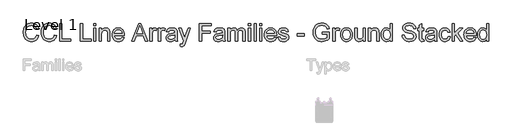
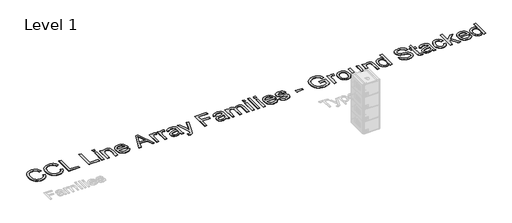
# One storey, part 10 of 31: 1 proxy.
"""IFC4 building model written with IfcOpenShell, lengths in millimetres."""

from ifc_helpers import new_model, si_unit, origin, origin_with_axes, place, context, project, spatial, polyline, outline, extrude, element, save

model = new_model("IFC4")

# Units and contexts
model_context = context("Model", 3, world=origin())
ifc_project = project(units=[si_unit("LENGTHUNIT", "METRE", prefix="MILLI")], contexts=[model_context])

# Site, building, storey
site = spatial("IfcSite", under=ifc_project)
building = spatial("IfcBuilding", under=site)
storey = spatial("IfcBuildingStorey", under=building, Name="Level 1", Elevation=0.0)

# Proxy
placement = place(None, origin())
element("IfcBuildingElementProxy", 1, Name="600mm Arial", ObjectType="600mm Arial", at=placement, inside=storey, context=model_context, shape_type="SweptSolid", body=[
    extrude(outline(polyline([(-20609.8448639, -1457.1212893), (-20534.5026313, -1476.5454586), (-20549.4110491, -1523.3998292), (-20569.2674798, -1564.3404968), (-20594.0719234, -1599.3674613), (-20623.8243797, -1628.4807226), (-20657.8534643, -1651.3675813), (-20695.4877924, -1667.7153374), (-20736.727364, -1677.5239911), (-20781.5721793, -1680.7935424), (-20827.5160419, -1678.3195359), (-20868.9625472, -1670.8975167), (-20905.9116951, -1658.5274846), (-20938.3634856, -1641.2094397), (-20966.7639756, -1619.2008993), (-20991.5592221, -1592.7593809), (-21012.749225, -1561.8848845), (-21030.3339844, -1526.57741), (-21044.1433548, -1488.3636677), (-21054.0071908, -1448.770368), (-21059.9254924, -1407.7975108), (-21061.8982596, -1365.4450961), (-21059.667975, -1320.0024726), (-21052.9771212, -1277.5580874), (-21041.8256982, -1238.1119405), (-21026.213706, -1201.6640318), (-21006.4906326, -1168.8167682), (-20983.0059657, -1140.1725563), (-20955.7597054, -1115.7313963), (-20924.7518518, -1095.493288), (-20891.0354669, -1079.6237785), (-20855.6636131, -1068.2884145), (-20818.6362903, -1061.4871961), (-20779.9534985, -1059.2201233), (-20736.8607213, -1062.1539822), (-20697.3455965, -1070.955559), (-20661.4081241, -1085.6248535), (-20629.0483041, -1106.1618659), (-20600.7995653, -1132.0239702), (-20577.1953368, -1162.6685404), (-20558.2356185, -1198.0955765), (-20543.9204104, -1238.3050786), (-20619.262643, -1256.2577199), (-20631.1268373, -1226.6294237), (-20645.3822646, -1201.3145439), (-20662.0289249, -1180.3130805), (-20681.0668182, -1163.6250335), (-20702.606309, -1150.9101121), (-20726.757762, -1141.8280253), (-20753.5211771, -1136.3787733), (-20782.8965544, -1134.5623559), (-20816.6957127, -1136.5765098), (-20847.6069974, -1142.6189716), (-20875.6304084, -1152.6897412), (-20900.7659457, -1166.7888187), (-20922.6963111, -1184.2816076), (-20941.1042065, -1204.5335114), (-20955.9896317, -1227.5445302), (-20967.3525868, -1253.314664), (-20981.7551669, -1308.460175), (-20986.556027, -1365.2979433), (-20980.8722501, -1434.9012168), (-20973.7675291, -1466.1711864), (-20963.8209197, -1495.0867112), (-20950.8714734, -1521.0729756), (-20934.758242, -1543.5551641), (-20915.4812255, -1562.5332765), (-20893.0404238, -1578.0073129), (-20868.5256873, -1590.0140615), (-20843.0268665, -1598.5903105), (-20816.5439614, -1603.7360599), (-20789.076972, -1605.4513097), (-20756.3216788, -1603.1152591), (-20726.1875449, -1596.1071071), (-20698.6745702, -1584.4268537), (-20673.7827547, -1568.074499), (-20652.1007096, -1547.1236194), (-20634.2170461, -1521.6477912), (-20620.1317642, -1491.6470145), (-20609.8448639, -1457.1212893)])), origin_with_axes(), (0.0, 0.0, 1.0), 5.0),
    extrude(outline(polyline([(-20007.107003, -1457.1212893), (-19931.7647704, -1476.5454586), (-19946.6731882, -1523.3998292), (-19966.5296189, -1564.3404968), (-19991.3340625, -1599.3674613), (-20021.0865188, -1628.4807226), (-20055.1156034, -1651.3675813), (-20092.7499315, -1667.7153374), (-20133.9895031, -1677.5239911), (-20178.8343184, -1680.7935424), (-20224.778181, -1678.3195359), (-20266.2246863, -1670.8975167), (-20303.1738342, -1658.5274846), (-20335.6256247, -1641.2094397), (-20364.0261147, -1619.2008993), (-20388.8213612, -1592.7593809), (-20410.0113641, -1561.8848845), (-20427.5961235, -1526.57741), (-20441.4054939, -1488.3636677), (-20451.2693299, -1448.770368), (-20457.1876315, -1407.7975108), (-20459.1603987, -1365.4450961), (-20456.9301141, -1320.0024726), (-20450.2392603, -1277.5580874), (-20439.0878373, -1238.1119405), (-20423.4758451, -1201.6640318), (-20403.7527717, -1168.8167682), (-20380.2681048, -1140.1725563), (-20353.0218445, -1115.7313963), (-20322.0139909, -1095.493288), (-20288.297606, -1079.6237785), (-20252.9257522, -1068.2884145), (-20215.8984294, -1061.4871961), (-20177.2156376, -1059.2201233), (-20134.1228604, -1062.1539822), (-20094.6077356, -1070.955559), (-20058.6702632, -1085.6248535), (-20026.3104432, -1106.1618659), (-19998.0617044, -1132.0239702), (-19974.4574759, -1162.6685404), (-19955.4977576, -1198.0955765), (-19941.1825495, -1238.3050786), (-20016.5247821, -1256.2577199), (-20028.3889764, -1226.6294237), (-20042.6444037, -1201.3145439), (-20059.291064, -1180.3130805), (-20078.3289573, -1163.6250335), (-20099.8684481, -1150.9101121), (-20124.0199011, -1141.8280253), (-20150.7833162, -1136.3787733), (-20180.1586935, -1134.5623559), (-20213.9578518, -1136.5765098), (-20244.8691365, -1142.6189716), (-20272.8925475, -1152.6897412), (-20298.0280848, -1166.7888187), (-20319.9584502, -1184.2816076), (-20338.3663456, -1204.5335114), (-20353.2517708, -1227.5445302), (-20364.6147259, -1253.314664), (-20379.017306, -1308.460175), (-20383.8181661, -1365.2979433), (-20378.1343892, -1434.9012168), (-20371.0296682, -1466.1711864), (-20361.0830588, -1495.0867112), (-20348.1336125, -1521.0729756), (-20332.0203811, -1543.5551641), (-20312.7433646, -1562.5332765), (-20290.3025629, -1578.0073129), (-20265.7878264, -1590.0140615), (-20240.2890056, -1598.5903105), (-20213.8061005, -1603.7360599), (-20186.3391111, -1605.4513097), (-20153.5838179, -1603.1152591), (-20123.449684, -1596.1071071), (-20095.9367093, -1584.4268537), (-20071.0448938, -1568.074499), (-20049.3628487, -1547.1236194), (-20031.4791852, -1521.6477912), (-20017.3939033, -1491.6470145), (-20007.107003, -1457.1212893)])), origin_with_axes(), (0.0, 0.0, 1.0), 5.0),
    extrude(outline(polyline([(-19828.1692006, -1671.3757633), (-19828.1692006, -1068.6379024), (-19752.8269679, -1068.6379024), (-19752.8269679, -1596.0335307), (-19451.4580375, -1596.0335307), (-19451.4580375, -1671.3757633), (-19828.1692006, -1671.3757633)])), origin_with_axes(), (0.0, 0.0, 1.0), 5.0),
    extrude(outline(polyline([(-19131.2535489, -1671.3757633), (-19131.2535489, -1068.6379024), (-19055.9113163, -1068.6379024), (-19055.9113163, -1596.0335307), (-18754.5423858, -1596.0335307), (-18754.5423858, -1671.3757633), (-19131.2535489, -1671.3757633)])), origin_with_axes(), (0.0, 0.0, 1.0), 5.0),
    extrude(outline(polyline([(-18679.2001532, -1143.980135), (-18679.2001532, -1068.6379024), (-18603.8579206, -1068.6379024), (-18603.8579206, -1143.980135), (-18679.2001532, -1143.980135)])), origin_with_axes(), (0.0, 0.0, 1.0), 5.0),
    extrude(outline(polyline([(-18679.2001532, -1671.3757633), (-18679.2001532, -1228.7401467), (-18603.8579206, -1228.7401467), (-18603.8579206, -1671.3757633), (-18679.2001532, -1671.3757633)])), origin_with_axes(), (0.0, 0.0, 1.0), 5.0),
    extrude(outline(polyline([(-18490.8445717, -1671.3757633), (-18490.8445717, -1228.7401467), (-18415.5023391, -1228.7401467), (-18415.5023391, -1290.5443219), (-18389.3275351, -1259.3847169), (-18357.8920186, -1237.1278562), (-18321.1957896, -1223.7737398), (-18279.2388481, -1219.3223676), (-18242.1011606, -1222.9092171), (-18208.0904702, -1233.6697654), (-18179.7267684, -1250.2612434), (-18159.5300468, -1271.3408817), (-18145.8264425, -1296.8534981), (-18136.9420923, -1326.7439102), (-18132.9689668, -1399.5845452), (-18132.9689668, -1671.3757633), (-18208.3111994, -1671.3757633), (-18208.3111994, -1409.7380883), (-18210.4817032, -1370.779385), (-18216.9932145, -1343.0778708), (-18229.0045616, -1323.2306371), (-18247.6745729, -1307.8347756), (-18271.6052967, -1297.9571441), (-18299.3987814, -1294.6646002), (-18322.276443, -1296.5132072), (-18343.5262267, -1302.0590283), (-18363.1481326, -1311.3020635), (-18381.1421607, -1324.2423126), (-18396.1747387, -1342.3513038), (-18406.9122945, -1367.1005651), (-18413.3548279, -1398.4900963), (-18415.5023391, -1436.5198976), (-18415.5023391, -1671.3757633), (-18490.8445717, -1671.3757633)])), origin_with_axes(), (0.0, 0.0, 1.0), 5.0),
    extrude(outline(polyline([(-17719.4696042, -1539.5268562), (-17645.5988996, -1548.9446353), (-17656.9250665, -1578.5315448), (-17672.2151619, -1604.6051812), (-17691.4691858, -1627.1655445), (-17714.6871383, -1646.2126348), (-17741.6298959, -1661.3417819), (-17772.0583354, -1672.1483155), (-17805.9724568, -1678.6322356), (-17843.3722602, -1680.7935424), (-17890.1208647, -1677.0641386), (-17931.7743036, -1665.8759275), (-17968.3325769, -1647.2289088), (-17999.7956845, -1621.1230827), (-18025.0967687, -1588.2850161), (-18043.1689718, -1549.441276), (-18054.0122936, -1504.5918622), (-18057.6267342, -1453.7367749), (-18053.9755054, -1401.1572408), (-18043.021819, -1354.8133064), (-18024.7656749, -1314.7049719), (-17999.2070733, -1280.8322372), (-17967.8267391, -1253.9216693), (-17932.1053974, -1234.699835), (-17892.0430481, -1223.1667345), (-17847.6396913, -1219.3223676), (-17804.6664758, -1223.1575374), (-17765.8043415, -1234.6630468), (-17731.0532885, -1253.8388958), (-17700.4133168, -1280.6850844), (-17675.4019397, -1314.4842427), (-17657.5366703, -1354.5190008), (-17646.8175087, -1400.7893588), (-17643.2444548, -1453.2953165), (-17643.6859132, -1473.6024027), (-17982.2845016, -1473.6024027), (-17977.9205014, -1503.6675587), (-17969.2430848, -1529.9987125), (-17956.2522519, -1552.5958641), (-17938.9480025, -1571.4590134), (-17918.28683, -1586.330643), (-17895.2252274, -1596.9532357), (-17869.7631948, -1603.3267912), (-17841.9007322, -1605.4513097), (-17801.8015947, -1601.5149724), (-17768.0300276, -1589.7059604), (-17740.5860307, -1569.2885096), (-17719.4696042, -1539.5268562)]), holes=[polyline([(-17982.2845016, -1398.2601701), (-17718.5866874, -1398.2601701), (-17728.7770187, -1358.4553382), (-17737.5418072, -1342.8019593), (-17748.753011, -1329.9812718), (-17769.2992204, -1314.530228), (-17792.6781212, -1303.4937681), (-17818.8897134, -1296.8718922), (-17847.9339969, -1294.6646002), (-17874.4260991, -1296.4258353), (-17898.7201063, -1301.7095404), (-17920.8160187, -1310.5157157), (-17940.7138361, -1322.8443611), (-17957.4110802, -1338.1252594), (-17969.9052724, -1355.7881937), (-17978.1964129, -1375.8331639), (-17982.2845016, -1398.2601701)])]), origin_with_axes(), (0.0, 0.0, 1.0), 5.0),
    extrude(outline(polyline([(-17393.0846981, -1671.3757633), (-17152.4898732, -1068.6379024), (-17088.3312533, -1068.6379024), (-16847.8835812, -1671.3757633), (-16927.493245, -1671.3757633), (-16996.3607545, -1483.0201818), (-17244.7546776, -1483.0201818), (-17313.6221871, -1671.3757633), (-17393.0846981, -1671.3757633)]), holes=[polyline([(-17217.0899516, -1407.6779491), (-17023.8783277, -1407.6779491), (-17078.324863, -1259.4950815), (-17120.557716, -1143.980135), (-17158.0816796, -1246.5456353), (-17217.0899516, -1407.6779491)])]), origin_with_axes(), (0.0, 0.0, 1.0), 5.0),
    extrude(outline(polyline([(-16776.8087798, -1671.3757633), (-16776.8087798, -1228.7401467), (-16710.8843262, -1228.7401467), (-16710.8843262, -1294.2231418), (-16686.5305381, -1256.2577199), (-16664.0897364, -1233.8904946), (-16641.5753583, -1222.9643994), (-16617.0008411, -1219.3223676), (-16579.4768775, -1225.1349031), (-16541.3643028, -1242.5725097), (-16566.5274313, -1310.115644), (-16593.014935, -1298.5273612), (-16619.5024386, -1294.6646002), (-16641.9984226, -1298.3802084), (-16662.1031737, -1309.5270328), (-16678.3451637, -1327.258945), (-16689.2528649, -1350.7298163), (-16698.4131266, -1392.8155165), (-16701.4665471, -1438.7271895), (-16701.4665471, -1671.3757633), (-16776.8087798, -1671.3757633)])), origin_with_axes(), (0.0, 0.0, 1.0), 5.0),
    extrude(outline(polyline([(-16494.2754075, -1671.3757633), (-16494.2754075, -1228.7401467), (-16428.3509539, -1228.7401467), (-16428.3509539, -1294.2231418), (-16403.9971658, -1256.2577199), (-16381.5563641, -1233.8904946), (-16359.041986, -1222.9643994), (-16334.4674688, -1219.3223676), (-16296.9435052, -1225.1349031), (-16258.8309305, -1242.5725097), (-16283.994059, -1310.115644), (-16310.4815627, -1298.5273612), (-16336.9690663, -1294.6646002), (-16359.4650503, -1298.3802084), (-16379.5698014, -1309.5270328), (-16395.8117915, -1327.258945), (-16406.7194926, -1350.7298163), (-16415.8797543, -1392.8155165), (-16418.9331748, -1438.7271895), (-16418.9331748, -1671.3757633), (-16494.2754075, -1671.3757633)])), origin_with_axes(), (0.0, 0.0, 1.0), 5.0),
    extrude(outline(polyline([(-15929.2086629, -1614.8690888), (-15965.2059161, -1645.7343882), (-16002.2700271, -1665.9311098), (-16041.2471245, -1677.0779342), (-16082.9833369, -1680.7935424), (-16116.5295763, -1678.5586592), (-16145.9463403, -1671.8540099), (-16171.233629, -1660.6795943), (-16192.3914422, -1645.0354124), (-16209.0978833, -1625.9147457), (-16221.0310555, -1604.3108756), (-16228.1909589, -1580.2238019), (-16230.5775933, -1553.6535248), (-16226.9723498, -1522.4203434), (-16216.1566191, -1494.0566416), (-16199.4731706, -1469.7764299), (-16178.2647736, -1450.793719), (-16153.3407684, -1436.4463212), (-16125.5104955, -1426.0720489), (-16060.3218059, -1414.7412834), (-15983.2873162, -1402.8219068), (-15929.6501213, -1388.842391), (-15929.2086629, -1372.066972), (-15934.395799, -1338.4425576), (-15940.8797192, -1325.9897521), (-15949.9572074, -1316.4432143), (-15965.6473745, -1306.9150707), (-15984.7588441, -1300.1092538), (-16033.2456911, -1294.6646002), (-16078.1272945, -1298.2882379), (-16109.4708405, -1309.1591508), (-16130.8447844, -1329.2639019), (-16145.8175816, -1360.5890538), (-16221.1598142, -1351.1712747), (-16208.0816093, -1309.9684912), (-16188.5654695, -1277.5948756), (-16160.7903788, -1252.8364174), (-16122.9353215, -1234.4791058), (-16076.6373724, -1223.1115522), (-16023.5336064, -1219.3223676), (-15972.6003442, -1222.6700938), (-15932.2252952, -1232.7132722), (-15901.7830601, -1247.8148281), (-15880.6482395, -1266.3376866), (-15866.6319355, -1289.2383408), (-15857.5452502, -1317.4732839), (-15853.8664303, -1383.3977375), (-15853.8664303, -1477.1340698), (-15850.0404575, -1608.0264837), (-15844.3750748, -1640.3817052), (-15835.0308721, -1671.3757633), (-15910.3731047, -1671.3757633), (-15922.4396342, -1645.1825652), (-15929.2086629, -1614.8690888)]), holes=[polyline([(-15929.2086629, -1464.1846236), (-15979.8292254, -1476.7293996), (-16050.7568741, -1487.2876129), (-16115.5776816, -1499.5012951), (-16132.4450711, -1507.8522164), (-16144.9346648, -1519.3669229), (-16152.6601867, -1533.1624977), (-16155.2353607, -1548.3560241), (-16149.6251603, -1570.7600376), (-16132.794559, -1589.1173492), (-16105.1114389, -1601.3678196), (-16066.9436819, -1605.4513097), (-16026.4766624, -1600.9447553), (-15990.7185325, -1587.425092), (-15961.7294312, -1567.5042819), (-15941.5694979, -1543.7942874), (-15932.6299654, -1519.3669229), (-15929.6501213, -1485.5217793), (-15929.2086629, -1464.1846236)])]), origin_with_axes(), (0.0, 0.0, 1.0), 5.0),
    extrude(outline(polyline([(-15750.2708604, -1840.8957867), (-15759.6886395, -1768.3494572), (-15721.428912, -1774.9713331), (-15701.3057669, -1772.8927999), (-15685.6707821, -1766.6572), (-15673.493888, -1756.7059921), (-15663.7450151, -1743.4806343), (-15643.1436234, -1688.0040295), (-15637.2575115, -1669.7570825), (-15797.3597558, -1228.7401467), (-15718.0443976, -1228.7401467), (-15632.9900804, -1474.6324723), (-15603.4123679, -1572.9305414), (-15573.8346555, -1485.9632377), (-15486.5730463, -1228.7401467), (-15407.8462993, -1228.7401467), (-15561.9152789, -1681.9707647), (-15601.94084, -1780.2688339), (-15622.4318671, -1811.649168), (-15645.645221, -1833.390994), (-15672.574183, -1846.0829228), (-15704.2120346, -1850.3135657), (-15726.1010133, -1847.959121), (-15750.2708604, -1840.8957867)])), origin_with_axes(), (0.0, 0.0, 1.0), 5.0),
    extrude(outline(polyline([(-15100.4441041, -1671.3757633), (-15100.4441041, -1068.6379024), (-14695.4796038, -1068.6379024), (-14695.4796038, -1143.980135), (-15025.1018715, -1143.980135), (-15025.1018715, -1322.9179375), (-14742.5684992, -1322.9179375), (-14742.5684992, -1398.2601701), (-15025.1018715, -1398.2601701), (-15025.1018715, -1671.3757633), (-15100.4441041, -1671.3757633)])), origin_with_axes(), (0.0, 0.0, 1.0), 5.0),
    extrude(outline(polyline([(-14318.7684408, -1614.8690888), (-14354.765694, -1645.7343882), (-14391.829805, -1665.9311098), (-14430.8069024, -1677.0779342), (-14472.5431148, -1680.7935424), (-14506.0893542, -1678.5586592), (-14535.5061182, -1671.8540099), (-14560.7934069, -1660.6795943), (-14581.9512201, -1645.0354124), (-14598.6576612, -1625.9147457), (-14610.5908335, -1604.3108756), (-14617.7507368, -1580.2238019), (-14620.1373712, -1553.6535248), (-14616.5321277, -1522.4203434), (-14605.716397, -1494.0566416), (-14589.0329485, -1469.7764299), (-14567.8245515, -1450.793719), (-14542.9005463, -1436.4463212), (-14515.0702734, -1426.0720489), (-14449.8815839, -1414.7412834), (-14372.8470941, -1402.8219068), (-14319.2098992, -1388.842391), (-14318.7684408, -1372.066972), (-14323.9555769, -1338.4425576), (-14330.4394971, -1325.9897521), (-14339.5169853, -1316.4432143), (-14355.2071524, -1306.9150707), (-14374.3186221, -1300.1092538), (-14422.805469, -1294.6646002), (-14467.6870724, -1298.2882379), (-14499.0306184, -1309.1591508), (-14520.4045623, -1329.2639019), (-14535.3773595, -1360.5890538), (-14610.7195922, -1351.1712747), (-14597.6413872, -1309.9684912), (-14578.1252474, -1277.5948756), (-14550.3501567, -1252.8364174), (-14512.4950994, -1234.4791058), (-14466.1971503, -1223.1115522), (-14413.0933843, -1219.3223676), (-14362.1601221, -1222.6700938), (-14321.7850731, -1232.7132722), (-14291.342838, -1247.8148281), (-14270.2080174, -1266.3376866), (-14256.1917134, -1289.2383408), (-14247.1050281, -1317.4732839), (-14243.4262082, -1383.3977375), (-14243.4262082, -1477.1340698), (-14239.6002354, -1608.0264837), (-14233.9348527, -1640.3817052), (-14224.59065, -1671.3757633), (-14299.9328826, -1671.3757633), (-14311.9994121, -1645.1825652), (-14318.7684408, -1614.8690888)]), holes=[polyline([(-14318.7684408, -1464.1846236), (-14369.3890033, -1476.7293996), (-14440.316652, -1487.2876129), (-14505.1374595, -1499.5012951), (-14522.004849, -1507.8522164), (-14534.4944428, -1519.3669229), (-14542.2199647, -1533.1624977), (-14544.7951386, -1548.3560241), (-14539.1849382, -1570.7600376), (-14522.3543369, -1589.1173492), (-14494.6712168, -1601.3678196), (-14456.5034598, -1605.4513097), (-14416.0364403, -1600.9447553), (-14380.2783104, -1587.425092), (-14351.2892092, -1567.5042819), (-14331.1292758, -1543.7942874), (-14322.1897433, -1519.3669229), (-14319.2098992, -1485.5217793), (-14318.7684408, -1464.1846236)])]), origin_with_axes(), (0.0, 0.0, 1.0), 5.0),
    extrude(outline(polyline([(-14139.8306383, -1671.3757633), (-14139.8306383, -1228.7401467), (-14064.4884057, -1228.7401467), (-14064.4884057, -1301.5807817), (-14041.8268748, -1268.1219143), (-14012.6906208, -1241.9103221), (-13978.072925, -1224.9693562), (-13938.967069, -1219.3223676), (-13897.0653097, -1225.0797208), (-13879.23223, -1232.2764124), (-13863.4776836, -1242.3517805), (-13838.3881315, -1269.9981124), (-13821.9805945, -1306.8782825), (-13794.5182036, -1268.5725697), (-13763.1930517, -1241.2113463), (-13728.0051388, -1224.7946123), (-13688.954465, -1219.3223676), (-13658.79274, -1221.5986375), (-13632.3190319, -1228.427447), (-13609.5333408, -1239.8087962), (-13590.4356667, -1255.7426851), (-13575.3387094, -1276.4130547), (-13564.5551684, -1302.003846), (-13558.0850438, -1332.515059), (-13555.9283356, -1367.9466937), (-13555.9283356, -1671.3757633), (-13631.2705682, -1671.3757633), (-13631.2705682, -1400.3203092), (-13633.0180077, -1362.7411634), (-13638.2603261, -1337.4124881), (-13648.0827754, -1320.066852), (-13663.5706074, -1306.4368241), (-13683.4914174, -1297.6076562), (-13706.6128008, -1294.6646002), (-13727.9637521, -1296.5499954), (-13747.4293082, -1302.2061811), (-13765.009469, -1311.6331573), (-13780.7042346, -1324.8309238), (-13793.6122941, -1342.1857569), (-13802.8323366, -1364.0839327), (-13808.3643621, -1390.5254511), (-13810.2083707, -1421.5103122), (-13810.2083707, -1671.3757633), (-13885.5506033, -1671.3757633), (-13885.5506033, -1391.9325997), (-13889.9100049, -1349.3318647), (-13895.359257, -1332.611628), (-13902.9882098, -1318.9448119), (-13913.1003662, -1308.3222193), (-13925.9992286, -1300.7346531), (-13941.6847972, -1296.1821135), (-13960.1570719, -1294.6646002), (-13989.1829613, -1298.7113022), (-14015.9279824, -1310.851408), (-14038.0009021, -1330.7906121), (-14053.0104875, -1358.234609), (-14061.6189262, -1396.3103955), (-14064.4884057, -1448.1449686), (-14064.4884057, -1671.3757633), (-14139.8306383, -1671.3757633)])), origin_with_axes(), (0.0, 0.0, 1.0), 5.0),
    extrude(outline(polyline([(-13442.9149867, -1671.3757633), (-13442.9149867, -1228.7401467), (-13367.5727541, -1228.7401467), (-13367.5727541, -1671.3757633), (-13442.9149867, -1671.3757633)])), origin_with_axes(), (0.0, 0.0, 1.0), 5.0),
    extrude(outline(polyline([(-13442.9149867, -1143.980135), (-13442.9149867, -1068.6379024), (-13367.5727541, -1068.6379024), (-13367.5727541, -1143.980135), (-13442.9149867, -1143.980135)])), origin_with_axes(), (0.0, 0.0, 1.0), 5.0),
    extrude(outline(polyline([(-13254.5594051, -1671.3757633), (-13254.5594051, -1068.6379024), (-13179.2171725, -1068.6379024), (-13179.2171725, -1671.3757633), (-13254.5594051, -1671.3757633)])), origin_with_axes(), (0.0, 0.0, 1.0), 5.0),
    extrude(outline(polyline([(-13066.2038236, -1143.980135), (-13066.2038236, -1068.6379024), (-12990.861591, -1068.6379024), (-12990.861591, -1143.980135), (-13066.2038236, -1143.980135)])), origin_with_axes(), (0.0, 0.0, 1.0), 5.0),
    extrude(outline(polyline([(-13066.2038236, -1671.3757633), (-13066.2038236, -1228.7401467), (-12990.861591, -1228.7401467), (-12990.861591, -1671.3757633), (-13066.2038236, -1671.3757633)])), origin_with_axes(), (0.0, 0.0, 1.0), 5.0),
    extrude(outline(polyline([(-12567.9444493, -1539.5268562), (-12494.0737447, -1548.9446353), (-12505.3999116, -1578.5315448), (-12520.6900071, -1604.6051812), (-12539.944031, -1627.1655445), (-12563.1619834, -1646.2126348), (-12590.104741, -1661.3417819), (-12620.5331805, -1672.1483155), (-12654.447302, -1678.6322356), (-12691.8471053, -1680.7935424), (-12738.5957098, -1677.0641386), (-12780.2491488, -1665.8759275), (-12816.807422, -1647.2289088), (-12848.2705297, -1621.1230827), (-12873.5716139, -1588.2850161), (-12891.6438169, -1549.441276), (-12902.4871387, -1504.5918622), (-12906.1015793, -1453.7367749), (-12902.4503505, -1401.1572408), (-12891.4966641, -1354.8133064), (-12873.2405201, -1314.7049719), (-12847.6819185, -1280.8322372), (-12816.3015843, -1253.9216693), (-12780.5802425, -1234.699835), (-12740.5178933, -1223.1667345), (-12696.1145365, -1219.3223676), (-12653.1413209, -1223.1575374), (-12614.2791866, -1234.6630468), (-12579.5281337, -1253.8388958), (-12548.888162, -1280.6850844), (-12523.8767848, -1314.4842427), (-12506.0115154, -1354.5190008), (-12495.2923538, -1400.7893588), (-12491.7192999, -1453.2953165), (-12492.1607583, -1473.6024027), (-12830.7593467, -1473.6024027), (-12826.3953465, -1503.6675587), (-12817.71793, -1529.9987125), (-12804.727097, -1552.5958641), (-12787.4228477, -1571.4590134), (-12766.7616751, -1586.330643), (-12743.7000725, -1596.9532357), (-12718.2380399, -1603.3267912), (-12690.3755773, -1605.4513097), (-12650.2764399, -1601.5149724), (-12616.5048727, -1589.7059604), (-12589.0608759, -1569.2885096), (-12567.9444493, -1539.5268562)]), holes=[polyline([(-12830.7593467, -1398.2601701), (-12567.0615325, -1398.2601701), (-12577.2518638, -1358.4553382), (-12586.0166524, -1342.8019593), (-12597.2278562, -1329.9812718), (-12617.7740656, -1314.530228), (-12641.1529664, -1303.4937681), (-12667.3645585, -1296.8718922), (-12696.4088421, -1294.6646002), (-12722.9009442, -1296.4258353), (-12747.1949515, -1301.7095404), (-12769.2908638, -1310.5157157), (-12789.1886812, -1322.8443611), (-12805.8859253, -1338.1252594), (-12818.3801176, -1355.7881937), (-12826.671258, -1375.8331639), (-12830.7593467, -1398.2601701)])]), origin_with_axes(), (0.0, 0.0, 1.0), 5.0),
    extrude(outline(polyline([(-12444.6304046, -1539.5268562), (-12369.2881719, -1530.1090771), (-12364.7356323, -1547.2891663), (-12357.4055835, -1562.3355399), (-12347.2980257, -1575.2481979), (-12334.4129588, -1586.0271404), (-12318.7135947, -1594.5252145), (-12300.163145, -1600.5952674), (-12254.5089894, -1605.4513097), (-12209.4066568, -1600.9999376), (-12191.8770798, -1595.4357224), (-12177.6952289, -1587.6458212), (-12158.9332471, -1568.2952282), (-12154.2427517, -1557.4611035), (-12152.6792532, -1545.8544265), (-12154.2519487, -1535.6824894), (-12158.9700353, -1526.6509864), (-12177.8423817, -1512.009283), (-12206.0589307, -1502.4443511), (-12255.3919062, -1490.5249745), (-12324.1490511, -1470.6409526), (-12368.8467135, -1453.6631985), (-12397.5599033, -1435.1403401), (-12418.3636301, -1410.6210051), (-12431.0003766, -1381.6686921), (-12435.2126255, -1349.8468995), (-12431.8281111, -1320.6554632), (-12421.6745681, -1293.708107), (-12405.6717013, -1270.0716888), (-12384.7392157, -1250.8130664), (-12363.9354889, -1238.6913547), (-12336.84098, -1228.5194175), (-12305.5158281, -1221.6216301), (-12272.0201724, -1219.3223676), (-12222.9815025, -1223.0195817), (-12180.3439792, -1234.1112238), (-12146.0573773, -1251.5120422), (-12122.0714712, -1274.1367849), (-12106.178969, -1303.659315), (-12096.1725787, -1341.7534956), (-12171.5148113, -1351.1712747), (-12181.0245609, -1327.4612801), (-12199.841725, -1309.6006092), (-12228.1502445, -1298.3986025), (-12266.1340605, -1294.6646002), (-12309.3969831, -1298.2330556), (-12338.2389315, -1308.9384216), (-12354.4625275, -1324.3894654), (-12359.8703929, -1342.194954), (-12357.6263127, -1353.7832368), (-12350.8940722, -1364.1207209), (-12339.3793657, -1373.354559), (-12322.7878878, -1380.7489871), (-12257.8935038, -1396.7886421), (-12147.3081761, -1432.2524664), (-12118.0983456, -1449.2118264), (-12095.9518495, -1472.4251803), (-12081.9907278, -1501.9661045), (-12077.3370206, -1537.9081754), (-12082.8000682, -1575.0642569), (-12099.1892111, -1610.0130465), (-12125.8790498, -1640.0138232), (-12162.2441851, -1662.3258662), (-12206.1692953, -1676.1766233), (-12255.539059, -1680.7935424), (-12296.088852, -1678.5678563), (-12331.506691, -1671.8907981), (-12361.7925763, -1660.7623677), (-12386.9465077, -1645.1825652), (-12407.4927171, -1625.224967), (-12423.9554364, -1600.9631494), (-12436.3346656, -1572.3971125), (-12444.6304046, -1539.5268562)])), origin_with_axes(), (0.0, 0.0, 1.0), 5.0),
    extrude(outline(polyline([(-11794.8036483, -1492.4379608), (-11794.8036483, -1417.0957282), (-11559.3591714, -1417.0957282), (-11559.3591714, -1492.4379608), (-11794.8036483, -1492.4379608)])), origin_with_axes(), (0.0, 0.0, 1.0), 5.0),
    extrude(outline(polyline([(-10947.2035314, -1435.9312864), (-10947.2035314, -1360.5890538), (-10702.3412754, -1360.5890538), (-10702.3412754, -1585.8799876), (-10761.8461881, -1627.2667121), (-10823.227299, -1656.9547891), (-10886.3374553, -1674.833854), (-10951.0295041, -1680.7935424), (-10994.3062223, -1678.425302), (-11035.5503925, -1671.320581), (-11074.7620147, -1659.4793793), (-11111.9410888, -1642.9016969), (-11145.8873999, -1621.8358541), (-11175.400733, -1596.5301714), (-11200.481088, -1566.9846486), (-11221.128465, -1533.1992859), (-11237.255492, -1496.2547365), (-11248.7747969, -1457.2316539), (-11255.6863799, -1416.130038), (-11257.9902409, -1372.9498888), (-11255.695577, -1329.7651411), (-11248.8115851, -1288.0611184), (-11237.3382654, -1247.8378208), (-11221.2756178, -1209.0952481), (-11200.9087508, -1173.5348548), (-11176.5227731, -1142.8580949), (-11148.1176845, -1117.0649685), (-11115.6934852, -1096.1554756), (-11079.9537493, -1079.996259), (-11041.6020513, -1068.4539614), (-11000.6383912, -1061.5285828), (-10957.0627689, -1059.2201233), (-10895.0010763, -1064.5728063), (-10839.1933776, -1080.6308554), (-10814.273971, -1092.3846852), (-10792.1964527, -1106.2354423), (-10772.9608229, -1122.1831268), (-10756.5670815, -1140.2277386), (-10730.2083365, -1184.2448194), (-10711.0232905, -1239.9237593), (-10780.4794112, -1259.4950815), (-10795.9856373, -1219.7822201), (-10814.8395895, -1189.8182316), (-10839.7819888, -1167.2302771), (-10873.553556, -1149.6455177), (-10913.8182403, -1138.3331464), (-10958.2399912, -1134.5623559), (-11010.2401113, -1138.627452), (-11054.6986504, -1150.8227401), (-11091.4500617, -1169.6215101), (-11120.3287983, -1193.4970515), (-11142.4936885, -1221.2169599), (-11159.1035606, -1251.5488304), (-11176.7618964, -1308.4233868), (-11182.6480083, -1369.85968), (-11180.8775762, -1407.4802126), (-11175.5662799, -1441.9093688), (-11166.7141194, -1473.1471487), (-11154.3210947, -1501.1935523), (-11138.5481541, -1525.9428135), (-11119.5562461, -1547.2891663), (-11097.3453707, -1565.2326106), (-11071.9155278, -1579.7731465), (-11044.4577353, -1591.0073429), (-11016.1630114, -1599.0317689), (-10987.0313559, -1603.8464245), (-10957.0627689, -1605.4513097), (-10904.8787078, -1600.6136615), (-10853.9822338, -1586.1007168), (-10809.7812121, -1566.1063304), (-10777.683508, -1544.8243569), (-10777.683508, -1435.9312864), (-10947.2035314, -1435.9312864)])), origin_with_axes(), (0.0, 0.0, 1.0), 5.0),
    extrude(outline(polyline([(-10589.3279265, -1671.3757633), (-10589.3279265, -1228.7401467), (-10523.4034729, -1228.7401467), (-10523.4034729, -1294.2231418), (-10499.0496849, -1256.2577199), (-10476.6088832, -1233.8904946), (-10454.0945051, -1222.9643994), (-10429.5199878, -1219.3223676), (-10391.9960243, -1225.1349031), (-10353.8834496, -1242.5725097), (-10379.046578, -1310.115644), (-10405.5340817, -1298.5273612), (-10432.0215853, -1294.6646002), (-10454.5175693, -1298.3802084), (-10474.6223204, -1309.5270328), (-10490.8643105, -1327.258945), (-10501.7720116, -1350.7298163), (-10510.9322733, -1392.8155165), (-10513.9856939, -1438.7271895), (-10513.9856939, -1671.3757633), (-10589.3279265, -1671.3757633)])), origin_with_axes(), (0.0, 0.0, 1.0), 5.0),
    extrude(outline(polyline([(-10325.6301123, -1450.057955), (-10321.5558192, -1392.7327431), (-10309.3329399, -1343.3353882), (-10288.9614745, -1301.8658903), (-10260.4414228, -1268.3242494), (-10231.7282331, -1246.8859261), (-10200.0351992, -1231.572838), (-10165.3623211, -1222.3849852), (-10127.7095989, -1219.3223676), (-10086.143532, -1223.0517713), (-10048.5597877, -1234.2399825), (-10014.9583659, -1252.8870011), (-9985.3392668, -1278.9928272), (-9961.1648212, -1311.674544), (-9943.89736, -1350.0492346), (-9933.5368834, -1394.1168991), (-9930.0833911, -1443.8775375), (-9931.6101014, -1484.2066012), (-9936.1902322, -1519.9923223), (-9943.8237836, -1551.2347007), (-9954.5107556, -1577.9337365), (-9968.1177909, -1600.9953391), (-9984.5115323, -1621.3254178), (-10003.6919798, -1638.9239728), (-10025.6591335, -1653.7910039), (-10049.5576676, -1665.6046145), (-10074.5322565, -1674.0429077), (-10100.5829003, -1679.1058837), (-10127.7095989, -1680.7935424), (-10169.8826712, -1677.0779342), (-10207.8159034, -1665.9311098), (-10241.5092956, -1647.353069), (-10270.9628479, -1621.3438119), (-10294.8797761, -1588.344797), (-10311.9632962, -1548.7974825), (-10322.2134083, -1502.7018685), (-10325.6301123, -1450.057955)]), holes=[polyline([(-10250.2878797, -1449.9108022), (-10248.1081789, -1486.4552799), (-10241.5690764, -1518.09773), (-10230.6705723, -1544.8381525), (-10215.4126666, -1566.6765475), (-10196.8530199, -1583.640506), (-10176.0492931, -1595.7576192), (-10153.0014861, -1603.0278871), (-10127.7095989, -1605.4513097), (-10102.5464705, -1603.0140915), (-10079.590634, -1595.7024369), (-10058.8420894, -1583.5163458), (-10040.3008369, -1566.4558183), (-10025.0429311, -1544.4012926), (-10014.144427, -1517.2332073), (-10007.6053246, -1484.9515622), (-10005.4256237, -1447.5563574), (-10007.6191201, -1412.170708), (-10014.1996093, -1381.3559924), (-10025.1670913, -1355.1122106), (-10040.5215661, -1333.4393625), (-10059.1317965, -1316.475404), (-10079.8665455, -1304.3582908), (-10102.7258129, -1297.0880229), (-10127.7095989, -1294.6646002), (-10153.0014861, -1297.0788258), (-10176.0492931, -1304.3215026), (-10196.8530199, -1316.3926306), (-10215.4126666, -1333.2922097), (-10230.6705723, -1355.0662253), (-10241.5690764, -1381.7606626), (-10248.1081789, -1413.3755215), (-10250.2878797, -1449.9108022)])]), origin_with_axes(), (0.0, 0.0, 1.0), 5.0),
    extrude(outline(polyline([(-9562.7900071, -1671.3757633), (-9562.7900071, -1595.2977667), (-9590.050063, -1632.7021685), (-9621.7982792, -1659.4195984), (-9658.0346557, -1675.4500564), (-9698.7591926, -1680.7935424), (-9735.4554216, -1677.041146), (-9769.6132648, -1665.783957), (-9798.2712722, -1648.8613852), (-9818.4679938, -1628.1128407), (-9832.0612335, -1602.912924), (-9840.9087955, -1572.6362358), (-9845.3233794, -1502.5915039), (-9845.3233794, -1228.7401467), (-9769.9811468, -1228.7401467), (-9769.9811468, -1467.1276796), (-9768.8407126, -1514.8051861), (-9765.4194101, -1543.9414402), (-9754.4381325, -1569.5644211), (-9735.6209685, -1589.0437728), (-9710.2187167, -1601.3494255), (-9679.482176, -1605.4513097), (-9646.9798017, -1601.257455), (-9616.5743548, -1588.6758908), (-9591.5031969, -1568.8654453), (-9575.0036894, -1542.984947), (-9565.8434277, -1507.5395167), (-9562.7900071, -1459.0342757), (-9562.7900071, -1228.7401467), (-9487.4477745, -1228.7401467), (-9487.4477745, -1671.3757633), (-9562.7900071, -1671.3757633)])), origin_with_axes(), (0.0, 0.0, 1.0), 5.0),
    extrude(outline(polyline([(-9383.8522047, -1671.3757633), (-9383.8522047, -1228.7401467), (-9308.5099721, -1228.7401467), (-9308.5099721, -1290.5443219), (-9282.3351681, -1259.3847169), (-9250.8996516, -1237.1278562), (-9214.2034226, -1223.7737398), (-9172.2464811, -1219.3223676), (-9135.1087936, -1222.9092171), (-9101.0981032, -1233.6697654), (-9072.7344014, -1250.2612434), (-9052.5376798, -1271.3408817), (-9038.8340755, -1296.8534981), (-9029.9497253, -1326.7439102), (-9025.9765998, -1399.5845452), (-9025.9765998, -1671.3757633), (-9101.3188324, -1671.3757633), (-9101.3188324, -1409.7380883), (-9103.4893362, -1370.779385), (-9110.0008475, -1343.0778708), (-9122.0121946, -1323.2306371), (-9140.6822059, -1307.8347756), (-9164.6129297, -1297.9571441), (-9192.4064144, -1294.6646002), (-9215.284076, -1296.5132072), (-9236.5338597, -1302.0590283), (-9256.1557656, -1311.3020635), (-9274.1497937, -1324.2423126), (-9289.1823717, -1342.3513038), (-9299.9199275, -1367.1005651), (-9306.3624609, -1398.4900963), (-9308.5099721, -1436.5198976), (-9308.5099721, -1671.3757633), (-9383.8522047, -1671.3757633)])), origin_with_axes(), (0.0, 0.0, 1.0), 5.0),
    extrude(outline(polyline([(-8649.2654367, -1671.3757633), (-8649.2654367, -1600.3009618), (-8671.807406, -1635.5164658), (-8699.1134471, -1660.6703972), (-8731.18356, -1675.7627561), (-8768.0177448, -1680.7935424), (-8792.8865676, -1678.9725265), (-8816.7253209, -1673.5094789), (-8839.5340046, -1664.4043995), (-8861.3126187, -1651.6572883), (-8881.3805816, -1635.649823), (-8899.0573114, -1616.7636811), (-8914.3428083, -1594.9988626), (-8927.2370723, -1570.3553674), (-8937.4733888, -1543.3022452), (-8944.7850434, -1514.3085454), (-8950.6343672, -1450.4994134), (-8945.2448959, -1387.4812276), (-8929.0764822, -1330.569883), (-8916.9547705, -1305.2136164), (-8902.1475202, -1283.002741), (-8884.6547313, -1263.9372566), (-8864.4764039, -1248.0171632), (-8842.3253093, -1235.4631901), (-8818.9142188, -1226.4960665), (-8794.2431325, -1221.1157923), (-8768.3120504, -1219.3223676), (-8731.4502744, -1224.4543214), (-8698.8559297, -1239.8501829), (-8671.2279918, -1263.4498129), (-8649.2654367, -1293.1930722), (-8649.2654367, -1068.6379024), (-8573.9232041, -1068.6379024), (-8573.9232041, -1671.3757633), (-8649.2654367, -1671.3757633)]), holes=[polyline([(-8875.2921346, -1450.2051078), (-8873.167616, -1486.7403884), (-8866.7940605, -1518.3552474), (-8856.1714679, -1545.0496847), (-8841.2998382, -1566.8237003), (-8823.5403349, -1583.7232794), (-8804.2541213, -1595.7944074), (-8783.4411974, -1603.0370842), (-8761.1015632, -1605.4513097), (-8738.656163, -1603.1474488), (-8717.9673993, -1596.2358658), (-8699.0352721, -1584.7165608), (-8681.8597815, -1568.5895338), (-8667.5997556, -1547.7260262), (-8657.4140229, -1521.9972791), (-8651.3025833, -1491.4032927), (-8649.2654367, -1455.9440669), (-8651.3393715, -1417.0681371), (-8657.5611757, -1383.7288313), (-8667.9308494, -1355.9261495), (-8682.4483927, -1333.6600917), (-8700.0009624, -1316.5995642), (-8719.4757155, -1304.4134731), (-8740.872652, -1297.1018184), (-8764.191772, -1294.6646002), (-8786.9728646, -1297.0052494), (-8807.7857884, -1304.027197), (-8826.6305436, -1315.730443), (-8843.5071302, -1332.1149873), (-8857.4130696, -1353.539515), (-8867.3458835, -1380.362711), (-8873.3055718, -1412.5845753), (-8875.2921346, -1450.2051078)])]), origin_with_axes(), (0.0, 0.0, 1.0), 5.0),
    extrude(outline(polyline([(-8244.3009364, -1464.1846236), (-8168.9587038, -1464.1846236), (-8160.3134769, -1505.9944124), (-8144.6784921, -1539.6004326), (-8120.2879158, -1566.2718773), (-8085.3759145, -1587.2779392), (-8042.7016031, -1600.9079671), (-7995.0240965, -1605.4513097), (-7953.0487608, -1602.0116131), (-7916.2973495, -1591.6925231), (-7886.517302, -1575.3585625), (-7865.4560578, -1553.874254), (-7852.9296759, -1529.2077662), (-7848.7542152, -1503.3272679), (-7851.8812122, -1478.1089571), (-7861.262203, -1456.3119489), (-7880.3184904, -1437.715514), (-7912.4713768, -1422.0989234), (-8022.1737877, -1393.3305513), (-8094.1866883, -1374.2926581), (-8140.2639082, -1356.1744698), (-8177.7694776, -1330.8274003), (-8204.3489517, -1300.1092538), (-8220.1862716, -1264.6822176), (-8225.4653783, -1225.2084795), (-8223.8329019, -1202.7722764), (-8218.9354729, -1181.0810342), (-8210.7730911, -1160.1347531), (-8199.3457566, -1139.9334331), (-8184.7822281, -1121.30021), (-8167.2112643, -1105.0582199), (-8146.6328652, -1091.2074628), (-8123.0470308, -1079.7479386), (-8070.0352353, -1064.3520771), (-8011.3580571, -1059.2201233), (-7947.7880483, -1064.5912004), (-7892.1642906, -1080.7044318), (-7867.8288967, -1092.7065819), (-7846.4733468, -1107.2287237), (-7828.0976412, -1124.2708571), (-7812.7017797, -1143.8329822), (-7800.405324, -1165.3448819), (-7791.3278358, -1188.236339), (-7785.469315, -1212.5073536), (-7782.8297617, -1238.1579258), (-7858.1719943, -1238.1579258), (-7863.2119776, -1214.1168374), (-7872.0043573, -1193.202746), (-7884.5491333, -1175.4156515), (-7900.8463057, -1160.755554), (-7921.1993771, -1149.2960298), (-7945.9118501, -1141.1106554), (-7974.9837248, -1136.1994308), (-8008.4150011, -1134.5623559), (-8042.9131352, -1136.1810367), (-8072.3896801, -1141.037079), (-8096.8446357, -1149.1304829), (-8116.2780021, -1160.4612484), (-8131.0852524, -1174.0820793), (-8141.6618598, -1189.0456794), (-8148.0078242, -1205.3520488), (-8150.1231457, -1223.0011876), (-8148.6240265, -1238.1855169), (-8144.1266691, -1251.9535006), (-8136.6310735, -1264.3051386), (-8126.1372396, -1275.2404309), (-8109.619338, -1285.596309), (-8083.6100809, -1296.0625518), (-8003.1175004, -1317.3261311), (-7920.0497459, -1337.5228527), (-7869.7970653, -1355.1444002), (-7826.8468424, -1382.4780325), (-7810.2415688, -1398.5452786), (-7796.8828539, -1416.2128114), (-7786.6143477, -1435.3886604), (-7779.2797004, -1455.9808551), (-7773.4119826, -1501.4142815), (-7775.0996413, -1524.9817218), (-7780.1626172, -1547.8593834), (-7788.6009105, -1570.0472662), (-7800.414521, -1591.5453703), (-7815.3965153, -1611.5213627), (-7833.3399596, -1629.1429102), (-7854.244854, -1644.410013), (-7878.1111984, -1657.3226711), (-7904.2446157, -1667.5911773), (-7931.9507284, -1674.9258245), (-7992.0810405, -1680.7935424), (-8030.621278, -1679.2116498), (-8065.8965629, -1674.465972), (-8097.906895, -1666.5565091), (-8126.6522744, -1655.4832611), (-8152.307445, -1641.2278338), (-8175.0471508, -1623.7718331), (-8194.8713918, -1603.1152591), (-8211.780168, -1579.2581117), (-8225.4009989, -1552.9729431), (-8235.3614039, -1525.0323056), (-8241.6613831, -1495.4361991), (-8244.3009364, -1464.1846236)])), origin_with_axes(), (0.0, 0.0, 1.0), 5.0),
    extrude(outline(polyline([(-7509.7141685, -1608.5415185), (-7500.2963894, -1673.5830553), (-7556.655911, -1680.7935424), (-7592.8187112, -1677.6665454), (-7619.7844614, -1668.2855545), (-7638.8407488, -1653.8277921), (-7651.2751602, -1635.4704806), (-7658.1177653, -1603.9429936), (-7660.3986337, -1549.9747049), (-7660.3986337, -1304.0823793), (-7716.9053081, -1304.0823793), (-7716.9053081, -1228.7401467), (-7660.3986337, -1228.7401467), (-7660.3986337, -1121.1714513), (-7585.0564011, -1076.8784591), (-7585.0564011, -1228.7401467), (-7509.7141685, -1228.7401467), (-7509.7141685, -1304.0823793), (-7585.0564011, -1304.0823793), (-7585.0564011, -1547.7674129), (-7581.0832755, -1586.6157516), (-7568.2074057, -1600.3745382), (-7557.3364927, -1604.1821169), (-7542.5292424, -1605.4513097), (-7509.7141685, -1608.5415185)])), origin_with_axes(), (0.0, 0.0, 1.0), 5.0),
    extrude(outline(polyline([(-7151.8385635, -1614.8690888), (-7187.8358168, -1645.7343882), (-7224.8999278, -1665.9311098), (-7263.8770252, -1677.0779342), (-7305.6132375, -1680.7935424), (-7339.159477, -1678.5586592), (-7368.576241, -1671.8540099), (-7393.8635296, -1660.6795943), (-7415.0213429, -1645.0354124), (-7431.727784, -1625.9147457), (-7443.6609562, -1604.3108756), (-7450.8208596, -1580.2238019), (-7453.207494, -1553.6535248), (-7449.6022504, -1522.4203434), (-7438.7865198, -1494.0566416), (-7422.1030713, -1469.7764299), (-7400.8946743, -1450.793719), (-7375.9706691, -1436.4463212), (-7348.1403962, -1426.0720489), (-7282.9517066, -1414.7412834), (-7205.9172168, -1402.8219068), (-7152.2800219, -1388.842391), (-7151.8385635, -1372.066972), (-7157.0256997, -1338.4425576), (-7163.5096198, -1325.9897521), (-7172.5871081, -1316.4432143), (-7188.2772752, -1306.9150707), (-7207.3887448, -1300.1092538), (-7255.8755918, -1294.6646002), (-7300.7571952, -1298.2882379), (-7332.1007412, -1309.1591508), (-7353.4746851, -1329.2639019), (-7368.4474823, -1360.5890538), (-7443.7897149, -1351.1712747), (-7430.71151, -1309.9684912), (-7411.1953701, -1277.5948756), (-7383.4202795, -1252.8364174), (-7345.5652222, -1234.4791058), (-7299.2672731, -1223.1115522), (-7246.1635071, -1219.3223676), (-7195.2302449, -1222.6700938), (-7154.8551959, -1232.7132722), (-7124.4129608, -1247.8148281), (-7103.2781402, -1266.3376866), (-7089.2618362, -1289.2383408), (-7080.1751509, -1317.4732839), (-7076.4963309, -1383.3977375), (-7076.4963309, -1477.1340698), (-7072.6703582, -1608.0264837), (-7067.0049755, -1640.3817052), (-7057.6607728, -1671.3757633), (-7133.0030054, -1671.3757633), (-7145.0695348, -1645.1825652), (-7151.8385635, -1614.8690888)]), holes=[polyline([(-7151.8385635, -1464.1846236), (-7202.4591261, -1476.7293996), (-7273.3867748, -1487.2876129), (-7338.2075823, -1499.5012951), (-7355.0749718, -1507.8522164), (-7367.5645655, -1519.3669229), (-7375.2900874, -1533.1624977), (-7377.8652614, -1548.3560241), (-7372.255061, -1570.7600376), (-7355.4244597, -1589.1173492), (-7327.7413395, -1601.3678196), (-7289.5735825, -1605.4513097), (-7249.1065631, -1600.9447553), (-7213.3484331, -1587.425092), (-7184.3593319, -1567.5042819), (-7164.1993986, -1543.7942874), (-7155.2598661, -1519.3669229), (-7152.2800219, -1485.5217793), (-7151.8385635, -1464.1846236)])]), origin_with_axes(), (0.0, 0.0, 1.0), 5.0),
    extrude(outline(polyline([(-6690.3673888, -1511.273519), (-6615.0251562, -1520.6912981), (-6623.2197276, -1556.2424944), (-6636.0312181, -1587.7010035), (-6653.4596276, -1615.0668254), (-6675.5049562, -1638.3399601), (-6701.2383018, -1656.9134023), (-6729.7307623, -1670.1801468), (-6760.9823378, -1678.1401935), (-6794.9930282, -1680.7935424), (-6837.2488739, -1677.0917298), (-6875.1361209, -1665.9862921), (-6908.6547692, -1647.4772292), (-6937.8048188, -1621.5645411), (-6961.3998502, -1588.7356716), (-6978.2534441, -1549.4780642), (-6988.3656005, -1503.7917189), (-6991.7363192, -1451.6766358), (-6985.978966, -1384.6301421), (-6978.7822745, -1354.45922), (-6968.7069063, -1326.523181), (-6955.6838837, -1301.3830452), (-6939.6442287, -1279.5998325), (-6920.5879414, -1261.1735431), (-6898.5150217, -1246.1041769), (-6874.4233495, -1234.3871353), (-6849.3108048, -1226.0178199), (-6823.1773876, -1220.9962307), (-6796.0230978, -1219.3223676), (-6762.59642, -1221.6216301), (-6732.3611185, -1228.5194175), (-6705.3171934, -1240.0157298), (-6681.4646445, -1256.1105671), (-6661.2081422, -1276.4360474), (-6644.9523565, -1300.6242885), (-6632.6972875, -1328.6752907), (-6624.4429353, -1360.5890538), (-6699.7851679, -1370.0068328), (-6713.451984, -1337.1365766), (-6734.7339574, -1313.5737348), (-6762.4538658, -1299.3918839), (-6795.4344866, -1294.6646002), (-6821.034475, -1296.9914538), (-6844.1236687, -1303.9720147), (-6864.7020678, -1315.6062828), (-6882.7696723, -1331.8942581), (-6897.4803536, -1353.2130198), (-6907.987983, -1379.9396467), (-6914.2925607, -1412.074139), (-6916.3940866, -1449.6164966), (-6914.338546, -1487.7244728), (-6908.171924, -1520.2314456), (-6897.8942208, -1547.137415), (-6883.5054363, -1568.442381), (-6865.7965167, -1584.6337873), (-6845.5584085, -1596.1990776), (-6822.7911115, -1603.1382517), (-6797.4946258, -1605.4513097), (-6758.4807402, -1599.6755624), (-6741.6087522, -1592.4558783), (-6726.4934007, -1582.3483205), (-6713.5577501, -1569.2425244), (-6703.2248645, -1553.0281254), (-6695.4947441, -1533.7051236), (-6690.3673888, -1511.273519)])), origin_with_axes(), (0.0, 0.0, 1.0), 5.0),
    extrude(outline(polyline([(-6549.1007026, -1671.3757633), (-6549.1007026, -1068.6379024), (-6473.75847, -1068.6379024), (-6473.75847, -1392.5212109), (-6304.8270579, -1228.7401467), (-6200.6428768, -1228.7401467), (-6371.781581, -1394.5813501), (-6191.2250977, -1671.3757633), (-6279.222471, -1671.3757633), (-6425.7866579, -1446.9677462), (-6473.75847, -1493.6151832), (-6473.75847, -1671.3757633), (-6549.1007026, -1671.3757633)])), origin_with_axes(), (0.0, 0.0, 1.0), 5.0),
    extrude(outline(polyline([(-5815.3968515, -1539.5268562), (-5741.5261468, -1548.9446353), (-5752.8523138, -1578.5315448), (-5768.1424092, -1604.6051812), (-5787.3964331, -1627.1655445), (-5810.6143855, -1646.2126348), (-5837.5571432, -1661.3417819), (-5867.9855827, -1672.1483155), (-5901.8997041, -1678.6322356), (-5939.2995074, -1680.7935424), (-5986.048112, -1677.0641386), (-6027.7015509, -1665.8759275), (-6064.2598242, -1647.2289088), (-6095.7229318, -1621.1230827), (-6121.024016, -1588.2850161), (-6139.096219, -1549.441276), (-6149.9395408, -1504.5918622), (-6153.5539814, -1453.7367749), (-6149.9027526, -1401.1572408), (-6138.9490662, -1354.8133064), (-6120.6929222, -1314.7049719), (-6095.1343206, -1280.8322372), (-6063.7539864, -1253.9216693), (-6028.0326447, -1234.699835), (-5987.9702954, -1223.1667345), (-5943.5669386, -1219.3223676), (-5900.593723, -1223.1575374), (-5861.7315888, -1234.6630468), (-5826.9805358, -1253.8388958), (-5796.3405641, -1280.6850844), (-5771.329187, -1314.4842427), (-5753.4639176, -1354.5190008), (-5742.7447559, -1400.7893588), (-5739.1717021, -1453.2953165), (-5739.6131605, -1473.6024027), (-6078.2117488, -1473.6024027), (-6073.8477487, -1503.6675587), (-6065.1703321, -1529.9987125), (-6052.1794991, -1552.5958641), (-6034.8752498, -1571.4590134), (-6014.2140772, -1586.330643), (-5991.1524747, -1596.9532357), (-5965.6904421, -1603.3267912), (-5937.8279795, -1605.4513097), (-5897.728842, -1601.5149724), (-5863.9572748, -1589.7059604), (-5836.513278, -1569.2885096), (-5815.3968515, -1539.5268562)]), holes=[polyline([(-6078.2117488, -1398.2601701), (-5814.5139347, -1398.2601701), (-5824.7042659, -1358.4553382), (-5833.4690545, -1342.8019593), (-5844.6802583, -1329.9812718), (-5865.2264677, -1314.530228), (-5888.6053685, -1303.4937681), (-5914.8169607, -1296.8718922), (-5943.8612442, -1294.6646002), (-5970.3533464, -1296.4258353), (-5994.6473536, -1301.7095404), (-6016.743266, -1310.5157157), (-6036.6410834, -1322.8443611), (-6053.3383274, -1338.1252594), (-6065.8325197, -1355.7881937), (-6074.1236602, -1375.8331639), (-6078.2117488, -1398.2601701)])]), origin_with_axes(), (0.0, 0.0, 1.0), 5.0),
    extrude(outline(polyline([(-5390.7138762, -1671.3757633), (-5390.7138762, -1600.3009618), (-5413.2558455, -1635.5164658), (-5440.5618866, -1660.6703972), (-5472.6319995, -1675.7627561), (-5509.4661843, -1680.7935424), (-5534.3350072, -1678.9725265), (-5558.1737604, -1673.5094789), (-5580.9824441, -1664.4043995), (-5602.7610583, -1651.6572883), (-5622.8290211, -1635.649823), (-5640.505751, -1616.7636811), (-5655.7912479, -1594.9988626), (-5668.6855118, -1570.3553674), (-5678.9218283, -1543.3022452), (-5686.233483, -1514.3085454), (-5692.0828067, -1450.4994134), (-5686.6933355, -1387.4812276), (-5670.5249218, -1330.569883), (-5658.40321, -1305.2136164), (-5643.5959597, -1283.002741), (-5626.1031709, -1263.9372566), (-5605.9248434, -1248.0171632), (-5583.7737488, -1235.4631901), (-5560.3626583, -1226.4960665), (-5535.691572, -1221.1157923), (-5509.7604899, -1219.3223676), (-5472.898714, -1224.4543214), (-5440.3043692, -1239.8501829), (-5412.6764313, -1263.4498129), (-5390.7138762, -1293.1930722), (-5390.7138762, -1068.6379024), (-5315.3716436, -1068.6379024), (-5315.3716436, -1671.3757633), (-5390.7138762, -1671.3757633)]), holes=[polyline([(-5616.7405741, -1450.2051078), (-5614.6160556, -1486.7403884), (-5608.2425, -1518.3552474), (-5597.6199074, -1545.0496847), (-5582.7482777, -1566.8237003), (-5564.9887744, -1583.7232794), (-5545.7025608, -1595.7944074), (-5524.8896369, -1603.0370842), (-5502.5500028, -1605.4513097), (-5480.1046025, -1603.1474488), (-5459.4158388, -1596.2358658), (-5440.4837117, -1584.7165608), (-5423.308221, -1568.5895338), (-5409.0481952, -1547.7260262), (-5398.8624624, -1521.9972791), (-5392.7510228, -1491.4032927), (-5390.7138762, -1455.9440669), (-5392.787811, -1417.0681371), (-5399.0096152, -1383.7288313), (-5409.379289, -1355.9261495), (-5423.8968322, -1333.6600917), (-5441.4494019, -1316.5995642), (-5460.924155, -1304.4134731), (-5482.3210916, -1297.1018184), (-5505.6402115, -1294.6646002), (-5528.4213041, -1297.0052494), (-5549.234228, -1304.027197), (-5568.0789832, -1315.730443), (-5584.9555697, -1332.1149873), (-5598.8615091, -1353.539515), (-5608.794323, -1380.362711), (-5614.7540113, -1412.5845753), (-5616.7405741, -1450.2051078)])]), origin_with_axes(), (0.0, 0.0, 1.0), 5.0),
])

save(model, "model.ifc")
